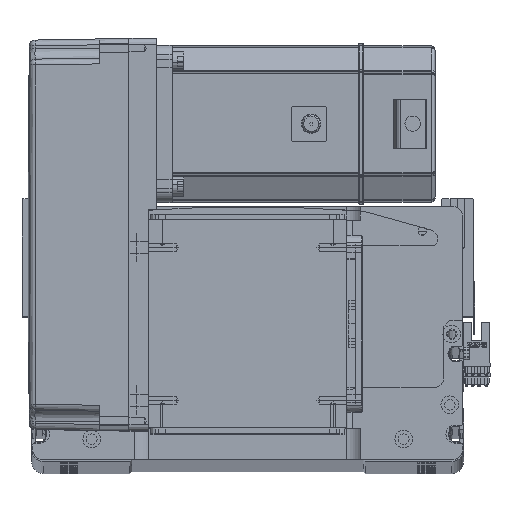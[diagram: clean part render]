
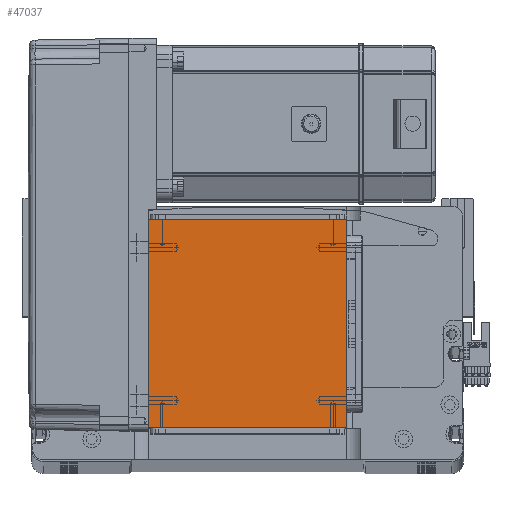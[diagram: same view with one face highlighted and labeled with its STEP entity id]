
A CAD part, top view. The second image highlights one B-rep face of the part: STEP entity #47037.
In plain terms, the highlighted planar face has unit normal (0, 0, 1).
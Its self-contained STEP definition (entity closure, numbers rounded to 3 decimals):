
#1016 = LINE ( 'NONE', #15746, #57708 ) ;
#1034 = CARTESIAN_POINT ( 'NONE',  ( -50.5, 122., 115. ) ) ;
#4517 = DIRECTION ( 'NONE',  ( 0., 1., 0. ) ) ;
#8800 = LINE ( 'NONE', #13216, #17495 ) ;
#9160 = CARTESIAN_POINT ( 'NONE',  ( 50.5, 16., 115. ) ) ;
#13216 = CARTESIAN_POINT ( 'NONE',  ( 50.5, 122., 115. ) ) ;
#13870 = LINE ( 'NONE', #56656, #45179 ) ;
#15746 = CARTESIAN_POINT ( 'NONE',  ( -50.5, 16., 115. ) ) ;
#16316 = DIRECTION ( 'NONE',  ( 1., 0., 0. ) ) ;
#17495 = VECTOR ( 'NONE', #4517, 1000. ) ;
#17659 = FACE_OUTER_BOUND ( 'NONE', #40582, .T. ) ;
#18522 = AXIS2_PLACEMENT_3D ( 'NONE', #39632, #57626, #25111 ) ;
#20150 = ORIENTED_EDGE ( 'NONE', *, *, #25120, .T. ) ;
#22610 = EDGE_CURVE ( 'NONE', #59515, #35308, #1016, .T. ) ;
#25043 = CARTESIAN_POINT ( 'NONE',  ( -50.5, 16., 115. ) ) ;
#25060 = DIRECTION ( 'NONE',  ( 0., -1., 0. ) ) ;
#25111 = DIRECTION ( 'NONE',  ( 1., 0., 0. ) ) ;
#25120 = EDGE_CURVE ( 'NONE', #52000, #59515, #13870, .T. ) ;
#26346 = ORIENTED_EDGE ( 'NONE', *, *, #22610, .T. ) ;
#27143 = ORIENTED_EDGE ( 'NONE', *, *, #42578, .T. ) ;
#28801 = LINE ( 'NONE', #1034, #56463 ) ;
#29423 = PLANE ( 'NONE',  #18522 ) ;
#30639 = CARTESIAN_POINT ( 'NONE',  ( -50.5, 122., 115. ) ) ;
#35308 = VERTEX_POINT ( 'NONE', #9160 ) ;
#39632 = CARTESIAN_POINT ( 'NONE',  ( 0., 0., 115. ) ) ;
#40582 = EDGE_LOOP ( 'NONE', ( #20150, #26346, #27143, #42934 ) ) ;
#41029 = VERTEX_POINT ( 'NONE', #58643 ) ;
#42578 = EDGE_CURVE ( 'NONE', #35308, #41029, #8800, .T. ) ;
#42934 = ORIENTED_EDGE ( 'NONE', *, *, #58451, .T. ) ;
#43583 = DIRECTION ( 'NONE',  ( -1., 0., 0. ) ) ;
#45179 = VECTOR ( 'NONE', #25060, 1000. ) ;
#47037 = ADVANCED_FACE ( 'NONE', ( #17659 ), #29423, .T. ) ;
#52000 = VERTEX_POINT ( 'NONE', #30639 ) ;
#56463 = VECTOR ( 'NONE', #43583, 1000. ) ;
#56656 = CARTESIAN_POINT ( 'NONE',  ( -50.5, 122., 115. ) ) ;
#57626 = DIRECTION ( 'NONE',  ( 0., 0., 1. ) ) ;
#57708 = VECTOR ( 'NONE', #16316, 1000. ) ;
#58451 = EDGE_CURVE ( 'NONE', #41029, #52000, #28801, .T. ) ;
#58643 = CARTESIAN_POINT ( 'NONE',  ( 50.5, 122., 115. ) ) ;
#59515 = VERTEX_POINT ( 'NONE', #25043 ) ;
